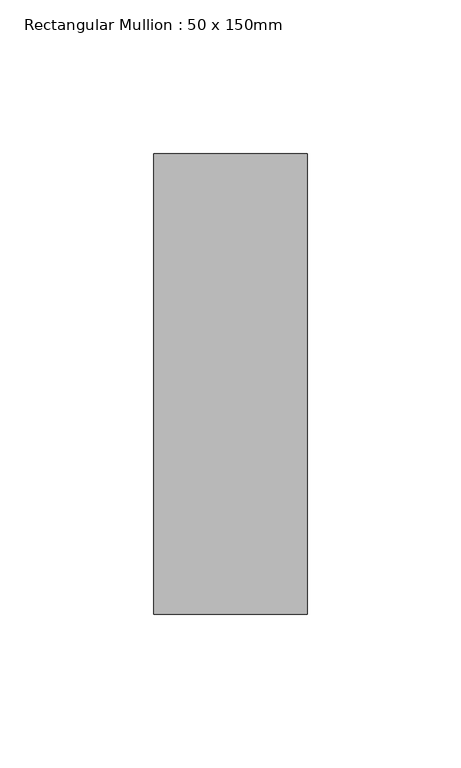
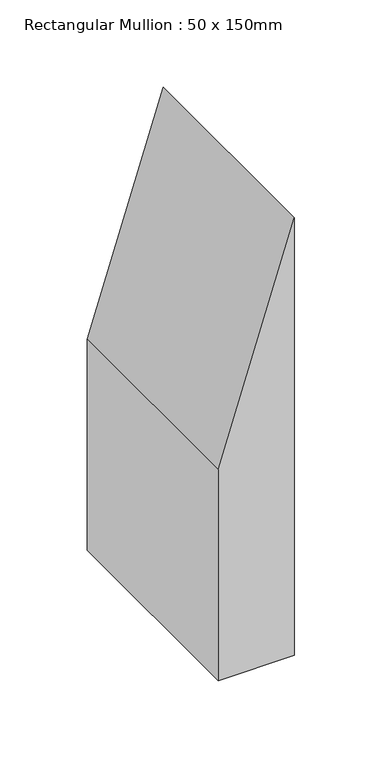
"""IFC4 building model written with IfcOpenShell, lengths in millimetres: member geometry, Rectangular Mullion : 50 x 150mm."""

from ifc_helpers import new_model, si_unit, frame, origin, place, context, project, spatial, polyline, outline, extrude, source, transform, mapped, element, save


def rectangular_mullion_50_x_150mm_20e05439(model_context):
    return source(origin(), model_context, "Body", "SweptSolid", [
        extrude(outline(polyline([(0.0, 0.0), (-158.5051181, -50.0), (-305.9385698, -50.0), (-305.889778, 0.0), (0.0, 0.0)])), frame((0.0, -75.0, 0.0), z_axis=(0.0, 1.0, 0.0), x_axis=(0.0, 0.0, 1.0)), (0.0, 0.0, 1.0), 150.0),
    ])


if __name__ == "__main__":
    model = new_model("IFC4")
    model_context = context("Model", 3, world=origin())
    ifc_project = project(units=[si_unit("LENGTHUNIT", "METRE", prefix="MILLI")], contexts=[model_context])
    site = spatial("IfcSite", under=ifc_project)
    building = spatial("IfcBuilding", under=site)
    placement = place(None, origin())
    rectangular_mullion_50_x_150mm_shape = rectangular_mullion_50_x_150mm_20e05439(model_context)
    element("IfcMember", 1, ObjectType="Rectangular Mullion : 50 x 150mm", at=placement, inside=building, context=model_context, shape_type="MappedRepresentation", body=[
        mapped(rectangular_mullion_50_x_150mm_shape, transform((0.0, 0.0, 0.0), x_axis=(1.0, 0.0, 0.0), y_axis=(0.0, 1.0, 0.0), z_axis=(0.0, 0.0, 1.0))),
    ])
    save(model, "model.ifc")
